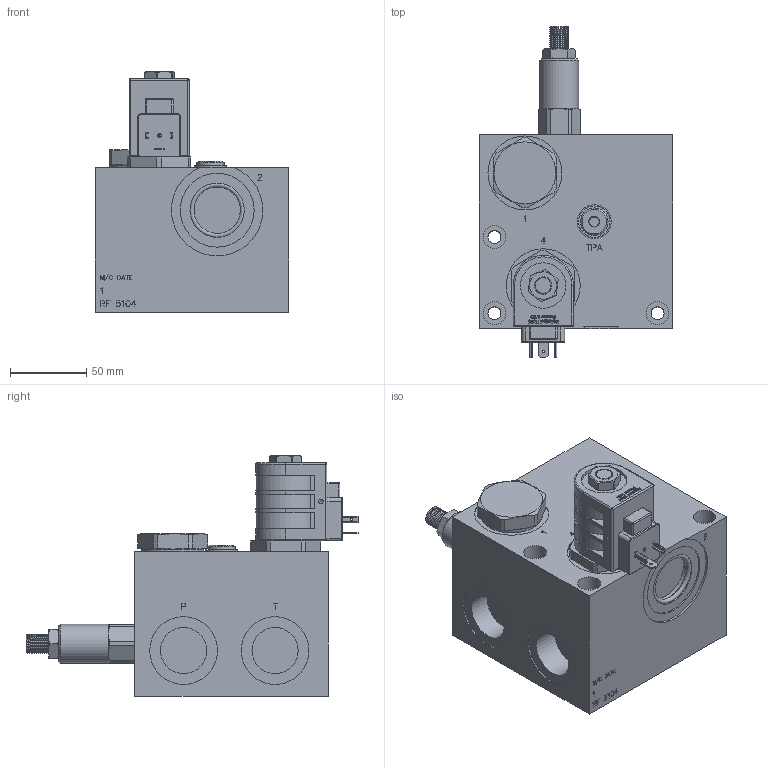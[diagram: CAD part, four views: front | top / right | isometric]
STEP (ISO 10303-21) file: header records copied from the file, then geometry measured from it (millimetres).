
FILE_DESCRIPTION(/* description */ ('Unknown'),/* implementation_level */ '2;1');
FILE_NAME(/* name */ 'RF LB5104',/* time_stamp */ '2022-11-08T08:54:53+00:00',/* author */ ('Unknown'),/* organization */ ('Unknown'),/* preprocessor_version */ 'ST-DEVELOPER v18.1',/* originating_system */ 'Solid Edge',/* authorisation */ 'Unknown');
FILE_SCHEMA (('AUTOMOTIVE_DESIGN {1 0 10303 214 3 1 1}'));
Length unit declared in the file: millimetre
Products named in the file (27): RF 5104_general; M-RF5104x; D-DERVDV04500; D-HJS2A00; Part2; Part4; Part6; Part8; Delta_1_2_nut1; D-SJCVA000005; SL-PCA-Body; PT-OR-2-119-V75A; PT-BK-B-08-119D; PT-OR-2-123-V75E; VP-RSJ-MRA-007; D-SJ-NVA-00; SJNVA00-3D Full1; SJNVA00-3D Full2; SJNVA00-3D Full3; SJNVA00-3D Full4; SJNVA00-3D Full5; D-DHC24; DHC-Body; DHC-Disc; PT-EL-HC-TerminalConnectors; PT-SLBI014; PT-PLGAH014B
Assembly tree (27 placements, depth 3):
  RF 5104_general
    M-RF5104x
    D-DERVDV04500
    D-HJS2A00
      Part2
      Part4
      Part6
      Part8
      Delta_1_2_nut1
    D-SJCVA000005
      SL-PCA-Body
      PT-OR-2-119-V75A
      PT-BK-B-08-119D
      PT-OR-2-123-V75E
      VP-RSJ-MRA-007
    D-SJ-NVA-00
      SJNVA00-3D Full1
      SJNVA00-3D Full2
      SJNVA00-3D Full3
      SJNVA00-3D Full4
      SJNVA00-3D Full5
    D-DHC24
      DHC-Body
      DHC-Disc  x2
      PT-EL-HC-TerminalConnectors
    PT-SLBI014
    PT-PLGAH014B
Bounding box: 127 x 217.82 x 157.84 mm (x, y, z)
Volume: 1587895.9 mm3; surface area: 159505.5 mm2
Topology: 27 solids, 30 shells, 1226 faces, 3070 edges, 1989 vertices
Faces by surface type: plane 780, cylinder 163, cone 141, bspline 118, torus 18, sphere 6
Full cylindrical faces by diameter (mm): 0.1 x8, 1 x2, 1.5 x3, 2.5 x1, 3 x2, 3.454 x6, 7.874 x1, 7.95 x1, 8.5 x6, 9.347 x1, 9.525 x2, 10.973 x1, 11.049 x1, 11.445 x1, 12.586 x1, 12.675 x1, 12.7 x3, 12.992 x1, 13 x1, 13.043 x1, 13.2 x1, 13.5 x1, 15 x3, 15.735 x1, 15.773 x2, 17.32 x1, 17.323 x1, 18 x1, 19.622 x1, 20.7 x1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
Entity records: 36151 total; most frequent: CARTESIAN_POINT 9295, ORIENTED_EDGE 5644, DIRECTION 4409, EDGE_CURVE 2822, VERTEX_POINT 1953, AXIS2_PLACEMENT_3D 1599, FACE_BOUND 1569, EDGE_LOOP 1558
